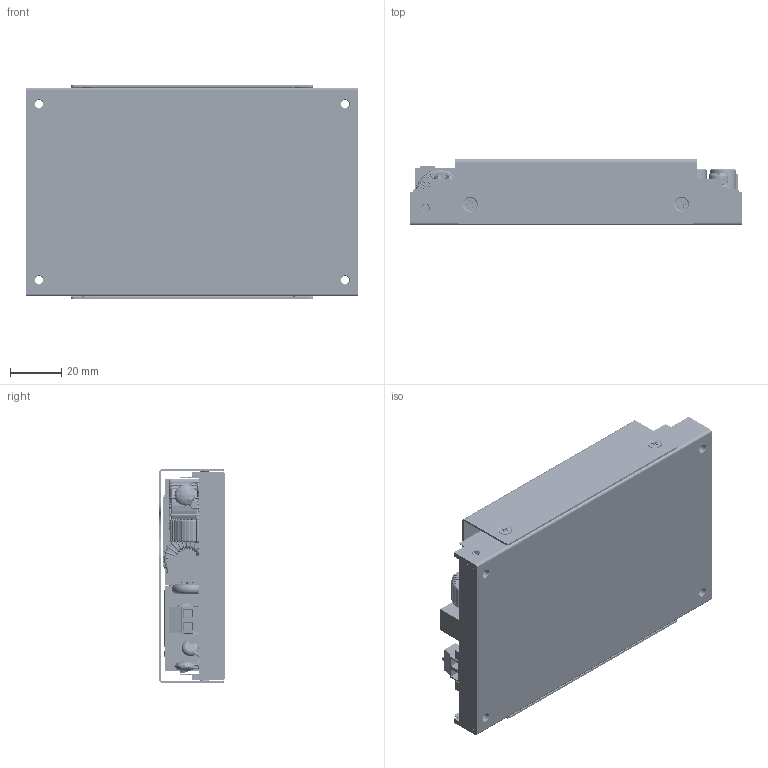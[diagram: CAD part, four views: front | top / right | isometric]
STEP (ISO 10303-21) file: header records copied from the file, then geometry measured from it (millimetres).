
FILE_DESCRIPTION (( 'STEP AP214' ), '1' );
FILE_NAME ('LFM420S(M)XXXC.STEP', '2024-01-22T01:18:37', ( 'cincon' ), ( '' ), 'SwSTEP 2.0', 'SolidWorks 2020', '' );
FILE_SCHEMA (( 'AUTOMOTIVE_DESIGN' ));
Length unit declared in the file: millimetre
Products named in the file (1): LFM420S(M)XXXC
Bounding box: 129.4 x 25.7 x 83.52 mm (x, y, z)
Volume: 189128.9 mm3; surface area: 88880.3 mm2
Topology: 35 solids, 44 shells, 3185 faces, 8742 edges, 5361 vertices
Faces by surface type: cylinder 1462, plane 850, torus 684, bspline 113, cone 76
Entity records: 164322 total; most frequent: CARTESIAN_POINT 51349, ORIENTED_EDGE 17056, DIRECTION 15908, EDGE_CURVE 8528, AXIS2_PLACEMENT_3D 6273, VERTEX_POINT 5387, LINE 3362, VECTOR 3362
